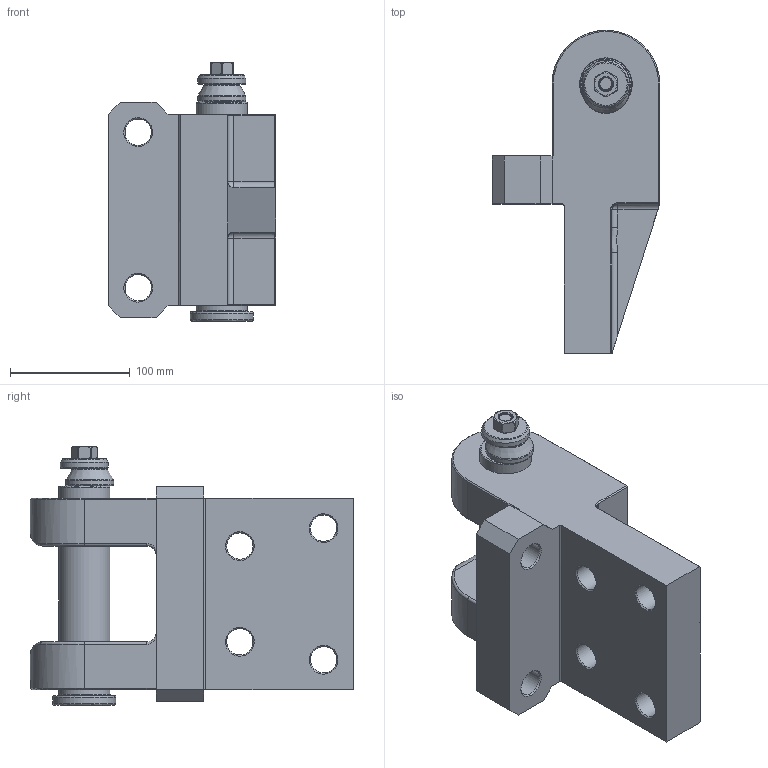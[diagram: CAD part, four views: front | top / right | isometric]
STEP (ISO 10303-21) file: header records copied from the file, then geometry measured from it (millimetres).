
FILE_DESCRIPTION(/* description */ (''),/* implementation_level */ '2;1');
FILE_NAME(/* name */ '2133.12.044.stp',/* time_stamp */ '2023-09-04T18:00:40+08:00',/* author */ (''),/* organization */ (''),/* preprocessor_version */ 'ST-DEVELOPER v16',/* originating_system */ 'SIEMENS PLM Software NX 10.0',/* authorisation */ '');
FILE_SCHEMA (('CONFIG_CONTROL_DESIGN'));
Products named in the file (1): 2133.12.044_model
Bounding box: 140 x 270 x 216 mm (x, y, z)
Volume: 2509587.6 mm3; surface area: 232440.7 mm2
Topology: 5 solids, 5 shells, 848 faces, 4164 edges, 3400 vertices
Faces by surface type: plane 386, bspline 325, cylinder 86, cone 26, torus 23, sphere 2
Full cylindrical faces by diameter (mm): 16 x1, 22 x6, 26 x1, 36 x6, 40 x2, 43 x1, 44 x2, 53 x1
Entity records: 52178 total; most frequent: CARTESIAN_POINT 28556, ORIENTED_EDGE 8208, EDGE_CURVE 4104, VERTEX_POINT 3399, B_SPLINE_CURVE_WITH_KNOTS 2880, DIRECTION 1046, EDGE_LOOP 999, ADVANCED_FACE 846
